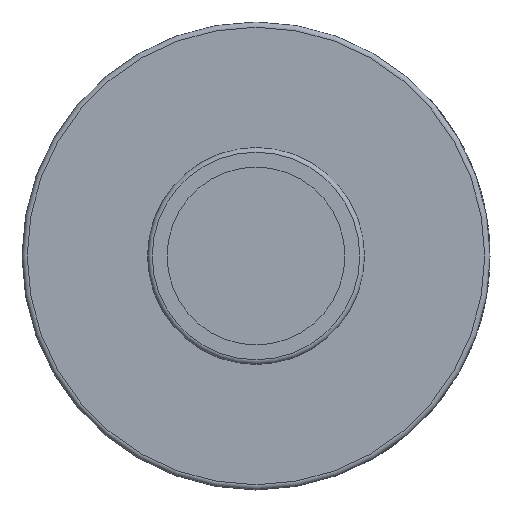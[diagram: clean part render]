
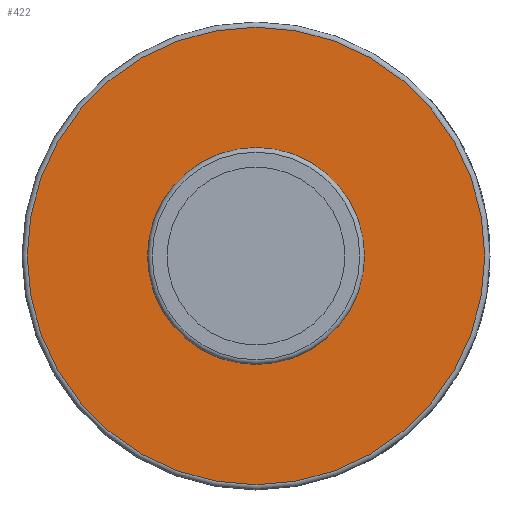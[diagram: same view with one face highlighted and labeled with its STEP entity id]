
A CAD part, left-side view. The second image highlights one B-rep face of the part: STEP entity #422.
In plain terms, the highlighted planar face has unit normal (-1, 0, 0).
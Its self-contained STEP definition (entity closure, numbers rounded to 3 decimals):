
#422 = ADVANCED_FACE( '', ( #970, #971 ), #972, .T. );
#970 = FACE_OUTER_BOUND( '', #1951, .T. );
#971 = FACE_BOUND( '', #1952, .T. );
#972 = PLANE( '', #1953 );
#1951 = EDGE_LOOP( '', ( #3853 ) );
#1952 = EDGE_LOOP( '', ( #3854 ) );
#1953 = AXIS2_PLACEMENT_3D( '', #3855, #3856, #3857 );
#3853 = ORIENTED_EDGE( '', *, *, #5308, .T. );
#3854 = ORIENTED_EDGE( '', *, *, #5309, .F. );
#3855 = CARTESIAN_POINT( '', ( 15.342, 0., 11.773 ) );
#3856 = DIRECTION( '', ( -1., 0., 0. ) );
#3857 = DIRECTION( '', ( 0., 0., 1. ) );
#5308 = EDGE_CURVE( '', #6300, #6300, #6301, .T. );
#5309 = EDGE_CURVE( '', #6302, #6302, #6303, .T. );
#6300 = VERTEX_POINT( '', #8167 );
#6301 = CIRCLE( '', #8168, 24.829 );
#6302 = VERTEX_POINT( '', #8169 );
#6303 = CIRCLE( '', #8170, 11.773 );
#8167 = CARTESIAN_POINT( '', ( 15.342, 0., 24.829 ) );
#8168 = AXIS2_PLACEMENT_3D( '', #9380, #9381, #9382 );
#8169 = CARTESIAN_POINT( '', ( 15.342, 0., 11.773 ) );
#8170 = AXIS2_PLACEMENT_3D( '', #9383, #9384, #9385 );
#9380 = CARTESIAN_POINT( '', ( 15.342, 0., 0. ) );
#9381 = DIRECTION( '', ( -1., 0., 0. ) );
#9382 = DIRECTION( '', ( 0., 0., 1. ) );
#9383 = CARTESIAN_POINT( '', ( 15.342, 0., 0. ) );
#9384 = DIRECTION( '', ( -1., 0., 0. ) );
#9385 = DIRECTION( '', ( 0., 0., 1. ) );
